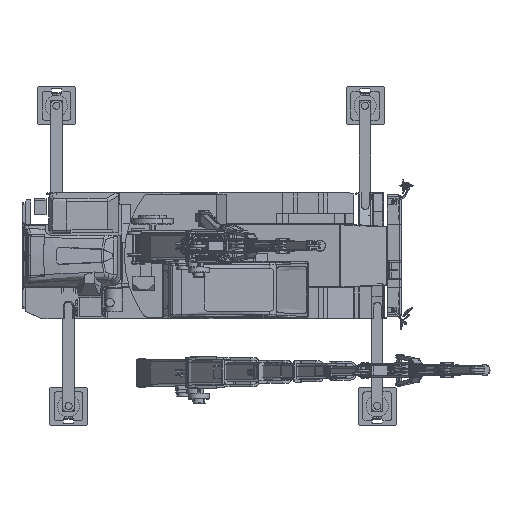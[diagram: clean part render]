
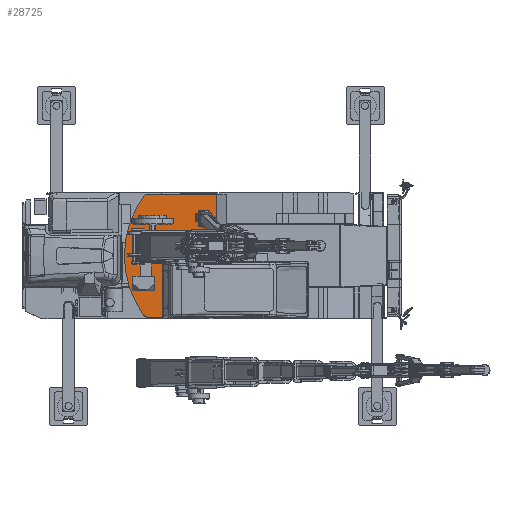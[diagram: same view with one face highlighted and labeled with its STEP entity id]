
A CAD part, top view. The second image highlights one B-rep face of the part: STEP entity #28725.
In plain terms, the highlighted planar face has unit normal (0, 0, 1).
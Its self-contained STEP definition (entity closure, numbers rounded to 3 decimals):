
#28645=AXIS2_PLACEMENT_3D('Circle Axis2P3D',#28643,#28644,$) ;
#28669=AXIS2_PLACEMENT_3D('Circle Axis2P3D',#28667,#28668,$) ;
#28693=AXIS2_PLACEMENT_3D('Circle Axis2P3D',#28691,#28692,$) ;
#28706=AXIS2_PLACEMENT_3D('Plane Axis2P3D',#28703,#28704,#28705) ;
#26690=CARTESIAN_POINT('Vertex',(-1237.295,970.,859.6)) ;
#26693=CARTESIAN_POINT('Line Origine',(-688.648,970.,859.6)) ;
#26697=CARTESIAN_POINT('Vertex',(-140.,970.,859.6)) ;
#28408=CARTESIAN_POINT('Line Origine',(-782.431,395.,859.6)) ;
#28412=CARTESIAN_POINT('Vertex',(-1424.862,395.,859.6)) ;
#28414=CARTESIAN_POINT('Vertex',(-140.,395.,859.6)) ;
#28547=CARTESIAN_POINT('Line Origine',(-1424.862,140.,859.6)) ;
#28551=CARTESIAN_POINT('Vertex',(-1424.862,-115.,859.6)) ;
#28571=CARTESIAN_POINT('Line Origine',(-1209.931,-115.,859.6)) ;
#28575=CARTESIAN_POINT('Vertex',(-995.,-115.,859.6)) ;
#28595=CARTESIAN_POINT('Line Origine',(-995.,-542.5,859.6)) ;
#28599=CARTESIAN_POINT('Vertex',(-995.,-970.,859.6)) ;
#28619=CARTESIAN_POINT('Line Origine',(-1116.148,-970.,859.6)) ;
#28623=CARTESIAN_POINT('Vertex',(-1237.295,-970.,859.6)) ;
#28643=CARTESIAN_POINT('Axis2P3D Location',(-1237.295,-900.,859.6)) ;
#28647=CARTESIAN_POINT('Vertex',(-1293.904,-941.176,859.6)) ;
#28667=CARTESIAN_POINT('Axis2P3D Location',(0.,0.,859.6)) ;
#28671=CARTESIAN_POINT('Vertex',(-1293.904,941.176,859.6)) ;
#28691=CARTESIAN_POINT('Axis2P3D Location',(-1237.295,900.,859.6)) ;
#28703=CARTESIAN_POINT('Axis2P3D Location',(0.,0.,859.6)) ;
#28708=CARTESIAN_POINT('Line Origine',(-140.,682.5,859.6)) ;
#26694=DIRECTION('Vector Direction',(1.,0.,0.)) ;
#28409=DIRECTION('Vector Direction',(-1.,0.,0.)) ;
#28548=DIRECTION('Vector Direction',(0.,1.,0.)) ;
#28572=DIRECTION('Vector Direction',(1.,0.,0.)) ;
#28596=DIRECTION('Vector Direction',(0.,-1.,0.)) ;
#28620=DIRECTION('Vector Direction',(-1.,0.,0.)) ;
#28644=DIRECTION('Axis2P3D Direction',(0.,0.,1.)) ;
#28668=DIRECTION('Axis2P3D Direction',(0.,0.,1.)) ;
#28692=DIRECTION('Axis2P3D Direction',(0.,0.,1.)) ;
#28704=DIRECTION('Axis2P3D Direction',(0.,0.,1.)) ;
#28705=DIRECTION('Axis2P3D XDirection',(1.,0.,0.)) ;
#28709=DIRECTION('Vector Direction',(0.,-1.,0.)) ;
#26695=VECTOR('Line Direction',#26694,1.) ;
#28410=VECTOR('Line Direction',#28409,1.) ;
#28549=VECTOR('Line Direction',#28548,1.) ;
#28573=VECTOR('Line Direction',#28572,1.) ;
#28597=VECTOR('Line Direction',#28596,1.) ;
#28621=VECTOR('Line Direction',#28620,1.) ;
#28710=VECTOR('Line Direction',#28709,1.) ;
#28714=ORIENTED_EDGE('',*,*,#26699,.T.) ;
#28715=ORIENTED_EDGE('',*,*,#28695,.T.) ;
#28716=ORIENTED_EDGE('',*,*,#28673,.T.) ;
#28717=ORIENTED_EDGE('',*,*,#28649,.T.) ;
#28718=ORIENTED_EDGE('',*,*,#28625,.T.) ;
#28719=ORIENTED_EDGE('',*,*,#28601,.T.) ;
#28720=ORIENTED_EDGE('',*,*,#28577,.T.) ;
#28721=ORIENTED_EDGE('',*,*,#28553,.T.) ;
#28722=ORIENTED_EDGE('',*,*,#28416,.T.) ;
#28723=ORIENTED_EDGE('',*,*,#28712,.F.) ;
#28725=ADVANCED_FACE('\X2\FF8AFF9FFF70FF82\X0\ \X2\FF8EFF9EFF83FF9EFF68FF70\X0\',(#28724),#28707,.T.) ;
#28646=CIRCLE('generated circle',#28645,70.) ;
#28670=CIRCLE('generated circle',#28669,1600.) ;
#28694=CIRCLE('generated circle',#28693,70.) ;
#26699=EDGE_CURVE('',#26698,#26691,#26696,.F.) ;
#28416=EDGE_CURVE('',#28413,#28415,#28411,.F.) ;
#28553=EDGE_CURVE('',#28552,#28413,#28550,.T.) ;
#28577=EDGE_CURVE('',#28576,#28552,#28574,.F.) ;
#28601=EDGE_CURVE('',#28600,#28576,#28598,.F.) ;
#28625=EDGE_CURVE('',#28624,#28600,#28622,.F.) ;
#28649=EDGE_CURVE('',#28648,#28624,#28646,.T.) ;
#28673=EDGE_CURVE('',#28672,#28648,#28670,.T.) ;
#28695=EDGE_CURVE('',#26691,#28672,#28694,.T.) ;
#28712=EDGE_CURVE('',#26698,#28415,#28711,.T.) ;
#28713=EDGE_LOOP('',(#28714,#28715,#28716,#28717,#28718,#28719,#28720,#28721,#28722,#28723)) ;
#28724=FACE_OUTER_BOUND('',#28713,.T.) ;
#26696=LINE('Line',#26693,#26695) ;
#28411=LINE('Line',#28408,#28410) ;
#28550=LINE('Line',#28547,#28549) ;
#28574=LINE('Line',#28571,#28573) ;
#28598=LINE('Line',#28595,#28597) ;
#28622=LINE('Line',#28619,#28621) ;
#28711=LINE('Line',#28708,#28710) ;
#28707=PLANE('',#28706) ;
#26691=VERTEX_POINT('',#26690) ;
#26698=VERTEX_POINT('',#26697) ;
#28413=VERTEX_POINT('',#28412) ;
#28415=VERTEX_POINT('',#28414) ;
#28552=VERTEX_POINT('',#28551) ;
#28576=VERTEX_POINT('',#28575) ;
#28600=VERTEX_POINT('',#28599) ;
#28624=VERTEX_POINT('',#28623) ;
#28648=VERTEX_POINT('',#28647) ;
#28672=VERTEX_POINT('',#28671) ;
